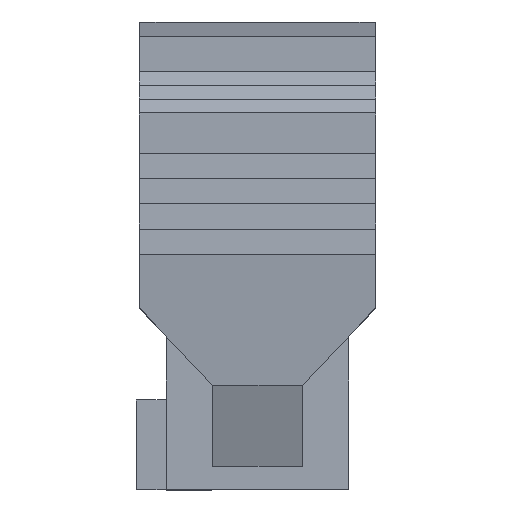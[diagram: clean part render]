
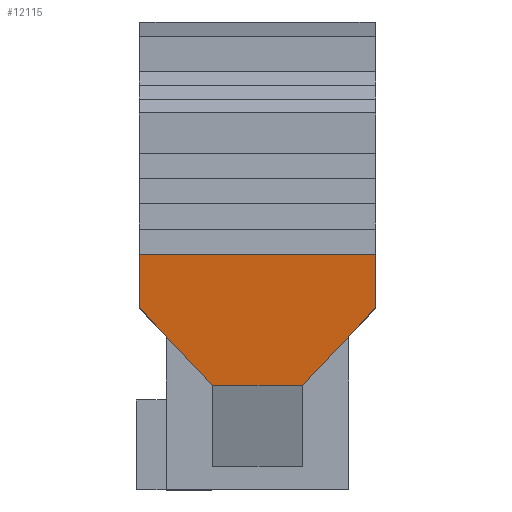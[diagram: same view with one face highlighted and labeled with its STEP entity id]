
A CAD part, left-side view. The second image highlights one B-rep face of the part: STEP entity #12115.
In plain terms, the highlighted planar face has unit normal (-0.995, 0, -0.104) as drawn and (-0.995, -0.105, 0) by its records, which use the part's own axes.
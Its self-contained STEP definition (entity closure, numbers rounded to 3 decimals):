
#11926=CARTESIAN_POINT('Vertex',(-3.457,7.889,0.9)) ;
#11933=CARTESIAN_POINT('Vertex',(-3.457,7.889,-7.)) ;
#11936=CARTESIAN_POINT('Line Origine',(-3.457,7.889,-3.05)) ;
#11953=CARTESIAN_POINT('Line Origine',(-2.997,3.513,-3.05)) ;
#11957=CARTESIAN_POINT('Vertex',(-2.997,3.513,-1.55)) ;
#11959=CARTESIAN_POINT('Vertex',(-2.997,3.513,-4.55)) ;
#11993=CARTESIAN_POINT('Line Origine',(-3.362,6.994,-7.)) ;
#11997=CARTESIAN_POINT('Vertex',(-3.268,6.099,-7.)) ;
#12049=CARTESIAN_POINT('Vertex',(-3.268,6.099,0.9)) ;
#12057=CARTESIAN_POINT('Line Origine',(-3.362,6.994,0.9)) ;
#12092=CARTESIAN_POINT('Axis2P3D Location',(-3.268,6.099,-6.2)) ;
#12097=CARTESIAN_POINT('Line Origine',(-3.133,4.806,-0.325)) ;
#12102=CARTESIAN_POINT('Line Origine',(-3.133,4.806,-5.775)) ;
#11937=DIRECTION('Vector Direction',(0.,0.,1.)) ;
#11954=DIRECTION('Vector Direction',(0.,0.,-1.)) ;
#11994=DIRECTION('Vector Direction',(-0.105,0.995,0.)) ;
#12058=DIRECTION('Vector Direction',(0.105,-0.995,0.)) ;
#12093=DIRECTION('Axis2P3D Direction',(-0.995,-0.105,-0.)) ;
#12094=DIRECTION('Axis2P3D XDirection',(-0.105,0.995,-0.)) ;
#12098=DIRECTION('Vector Direction',(0.076,-0.724,-0.686)) ;
#12103=DIRECTION('Vector Direction',(-0.076,0.724,-0.686)) ;
#12095=AXIS2_PLACEMENT_3D('Plane Axis2P3D',#12092,#12093,#12094) ;
#12108=ORIENTED_EDGE('',*,*,#12101,.F.) ;
#12109=ORIENTED_EDGE('',*,*,#12061,.F.) ;
#12110=ORIENTED_EDGE('',*,*,#11940,.F.) ;
#12111=ORIENTED_EDGE('',*,*,#11999,.F.) ;
#12112=ORIENTED_EDGE('',*,*,#12106,.F.) ;
#12113=ORIENTED_EDGE('',*,*,#11961,.F.) ;
#11938=VECTOR('Line Direction',#11937,1.) ;
#11955=VECTOR('Line Direction',#11954,1.) ;
#11995=VECTOR('Line Direction',#11994,1.) ;
#12059=VECTOR('Line Direction',#12058,1.) ;
#12099=VECTOR('Line Direction',#12098,1.) ;
#12104=VECTOR('Line Direction',#12103,1.) ;
#12115=ADVANCED_FACE('\X2\96F64EF6\X0\',(#12114),#12096,.T.) ;
#11940=EDGE_CURVE('',#11934,#11927,#11939,.T.) ;
#11961=EDGE_CURVE('',#11958,#11960,#11956,.T.) ;
#11999=EDGE_CURVE('',#11998,#11934,#11996,.T.) ;
#12061=EDGE_CURVE('',#11927,#12050,#12060,.T.) ;
#12101=EDGE_CURVE('',#12050,#11958,#12100,.T.) ;
#12106=EDGE_CURVE('',#11960,#11998,#12105,.T.) ;
#12107=EDGE_LOOP('',(#12108,#12109,#12110,#12111,#12112,#12113)) ;
#12114=FACE_OUTER_BOUND('',#12107,.T.) ;
#11939=LINE('Line',#11936,#11938) ;
#11956=LINE('Line',#11953,#11955) ;
#11996=LINE('Line',#11993,#11995) ;
#12060=LINE('Line',#12057,#12059) ;
#12100=LINE('Line',#12097,#12099) ;
#12105=LINE('Line',#12102,#12104) ;
#12096=PLANE('Plane',#12095) ;
#11927=VERTEX_POINT('',#11926) ;
#11934=VERTEX_POINT('',#11933) ;
#11958=VERTEX_POINT('',#11957) ;
#11960=VERTEX_POINT('',#11959) ;
#11998=VERTEX_POINT('',#11997) ;
#12050=VERTEX_POINT('',#12049) ;
